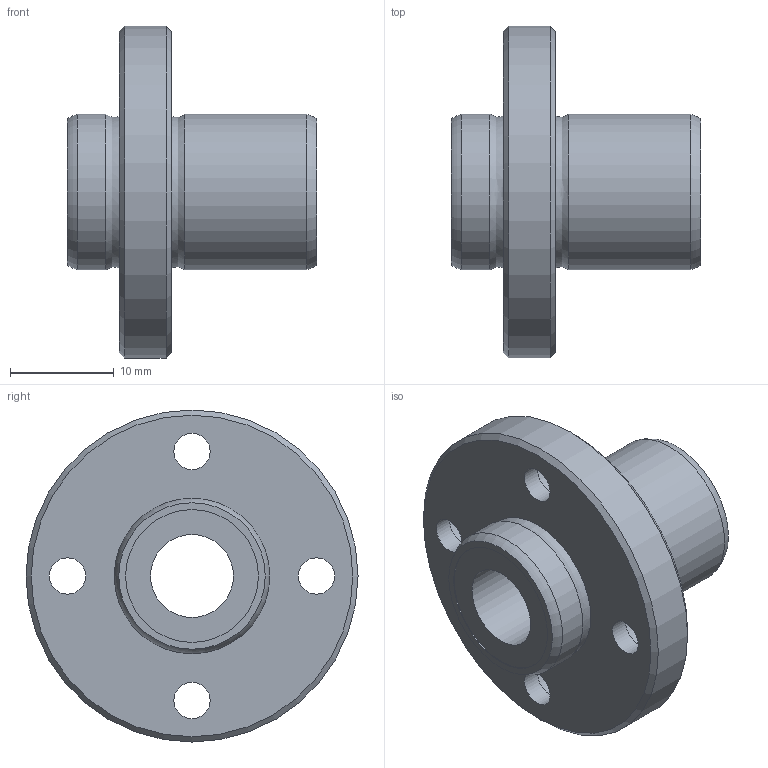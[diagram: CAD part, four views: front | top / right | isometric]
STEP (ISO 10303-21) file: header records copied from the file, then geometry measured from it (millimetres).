
FILE_DESCRIPTION((''),'2;1');
FILE_NAME('D:\製品 (図面)\カタログ用3D\リニアベアリング関連\STEP形式\LFB\LFB8.stp','2010-06-03T09:15:58',('Tsuchiya'),(''),'Autodesk Inventor 10','Autodesk Inventor 10','');
FILE_SCHEMA(('AUTOMOTIVE_DESIGN { 1 0 10303 214 1 1 1 1 }'));
Length unit declared in the file: millimetre
Products named in the file (1): LFB8
Bounding box: 24 x 32 x 32 mm (x, y, z)
Volume: 5656.4 mm3; surface area: 3685 mm2
Topology: 1 solids, 1 shells, 30 faces, 54 edges, 34 vertices
Faces by surface type: bspline 14, cylinder 6, plane 6, cone 2, torus 2
Full cylindrical faces by diameter (mm): 8 x1, 12.8 x2, 15 x2, 32 x1
Entity records: 907 total; most frequent: CARTESIAN_POINT 371, DIRECTION 102, ORIENTED_EDGE 68, EDGE_LOOP 68, AXIS2_PLACEMENT_3D 51, FACE_BOUND 38, VERTEX_POINT 34, CIRCLE 34
